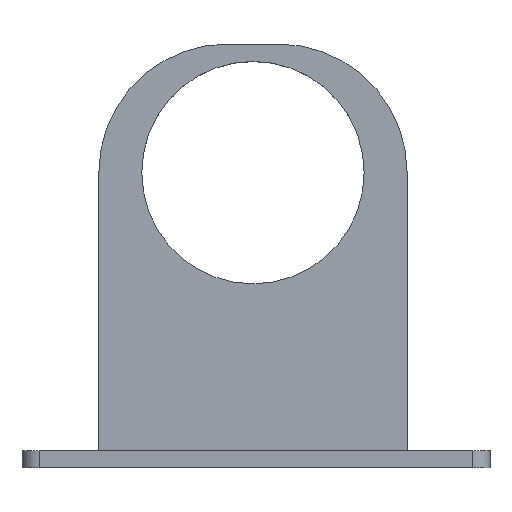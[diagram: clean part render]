
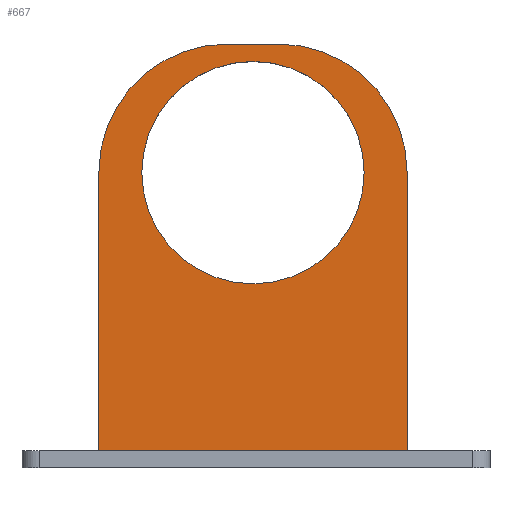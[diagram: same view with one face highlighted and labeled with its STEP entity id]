
A CAD part, top view. The second image highlights one B-rep face of the part: STEP entity #667.
In plain terms, the highlighted planar face has unit normal (0, 0, 1).
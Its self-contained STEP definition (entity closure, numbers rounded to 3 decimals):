
#18 = ORIENTED_EDGE ( 'NONE', *, *, #673, .T. ) ;
#30 = VECTOR ( 'NONE', #362, 1000. ) ;
#33 = FACE_OUTER_BOUND ( 'NONE', #332, .T. ) ;
#41 = CARTESIAN_POINT ( 'NONE',  ( -3.019, 15.029, 8. ) ) ;
#51 = EDGE_CURVE ( 'NONE', #725, #519, #535, .T. ) ;
#55 = LINE ( 'NONE', #434, #288 ) ;
#74 = AXIS2_PLACEMENT_3D ( 'NONE', #653, #264, #192 ) ;
#78 = ORIENTED_EDGE ( 'NONE', *, *, #700, .F. ) ;
#105 = CARTESIAN_POINT ( 'NONE',  ( -13., 0., 8. ) ) ;
#111 = DIRECTION ( 'NONE',  ( 0., 0., -1. ) ) ;
#135 = CARTESIAN_POINT ( 'NONE',  ( -18.019, 15.029, 8. ) ) ;
#137 = VECTOR ( 'NONE', #484, 1000. ) ;
#170 = LINE ( 'NONE', #290, #137 ) ;
#183 = EDGE_CURVE ( 'NONE', #348, #746, #236, .T. ) ;
#189 = DIRECTION ( 'NONE',  ( 0., -1., 0. ) ) ;
#192 = DIRECTION ( 'NONE',  ( -1., 0., 0. ) ) ;
#236 = LINE ( 'NONE', #666, #30 ) ;
#253 = DIRECTION ( 'NONE',  ( 0., 0., 1. ) ) ;
#263 = VECTOR ( 'NONE', #588, 1000. ) ;
#264 = DIRECTION ( 'NONE',  ( 0., 0., -1. ) ) ;
#286 = PLANE ( 'NONE',  #515 ) ;
#288 = VECTOR ( 'NONE', #189, 1000. ) ;
#290 = CARTESIAN_POINT ( 'NONE',  ( -18.019, 15.029, 8. ) ) ;
#293 = DIRECTION ( 'NONE',  ( -1., 0., 0. ) ) ;
#310 = CARTESIAN_POINT ( 'NONE',  ( 13., 0., 8. ) ) ;
#330 = ORIENTED_EDGE ( 'NONE', *, *, #487, .F. ) ;
#332 = EDGE_LOOP ( 'NONE', ( #330, #601, #78, #18, #365, #587 ) ) ;
#348 = VERTEX_POINT ( 'NONE', #641 ) ;
#349 = DIRECTION ( 'NONE',  ( -1., 0., 0. ) ) ;
#362 = DIRECTION ( 'NONE',  ( -1., 0., 0. ) ) ;
#365 = ORIENTED_EDGE ( 'NONE', *, *, #388, .T. ) ;
#388 = EDGE_CURVE ( 'NONE', #660, #746, #650, .T. ) ;
#390 = DIRECTION ( 'NONE',  ( -1., 0., 0. ) ) ;
#401 = EDGE_CURVE ( 'NONE', #519, #725, #631, .T. ) ;
#404 = ORIENTED_EDGE ( 'NONE', *, *, #51, .T. ) ;
#405 = VERTEX_POINT ( 'NONE', #452 ) ;
#411 = CARTESIAN_POINT ( 'NONE',  ( -3.019, 0.029, 8. ) ) ;
#427 = AXIS2_PLACEMENT_3D ( 'NONE', #581, #454, #390 ) ;
#434 = CARTESIAN_POINT ( 'NONE',  ( 18.019, 15.029, 8. ) ) ;
#445 = CARTESIAN_POINT ( 'NONE',  ( -18.019, 0.029, 8. ) ) ;
#452 = CARTESIAN_POINT ( 'NONE',  ( 18.019, 0.029, 8. ) ) ;
#454 = DIRECTION ( 'NONE',  ( 0., 0., -1. ) ) ;
#467 = AXIS2_PLACEMENT_3D ( 'NONE', #504, #253, #293 ) ;
#484 = DIRECTION ( 'NONE',  ( 1., 0., 0. ) ) ;
#487 = EDGE_CURVE ( 'NONE', #405, #348, #55, .T. ) ;
#502 = AXIS2_PLACEMENT_3D ( 'NONE', #411, #556, #551 ) ;
#504 = CARTESIAN_POINT ( 'NONE',  ( 3.019, 0.029, 8. ) ) ;
#512 = EDGE_CURVE ( 'NONE', #405, #685, #766, .T. ) ;
#515 = AXIS2_PLACEMENT_3D ( 'NONE', #624, #111, #349 ) ;
#519 = VERTEX_POINT ( 'NONE', #310 ) ;
#535 = CIRCLE ( 'NONE', #427, 13. ) ;
#540 = CARTESIAN_POINT ( 'NONE',  ( -18.019, -32.5, 8. ) ) ;
#551 = DIRECTION ( 'NONE',  ( -1., 0., 0. ) ) ;
#556 = DIRECTION ( 'NONE',  ( 0., 0., 1. ) ) ;
#581 = CARTESIAN_POINT ( 'NONE',  ( 0., 0., 8. ) ) ;
#587 = ORIENTED_EDGE ( 'NONE', *, *, #183, .F. ) ;
#588 = DIRECTION ( 'NONE',  ( 0., -1., 0. ) ) ;
#601 = ORIENTED_EDGE ( 'NONE', *, *, #512, .T. ) ;
#624 = CARTESIAN_POINT ( 'NONE',  ( 0., 0., 8. ) ) ;
#626 = ORIENTED_EDGE ( 'NONE', *, *, #401, .T. ) ;
#631 = CIRCLE ( 'NONE', #74, 13. ) ;
#641 = CARTESIAN_POINT ( 'NONE',  ( 18.019, -32.5, 8. ) ) ;
#642 = FACE_BOUND ( 'NONE', #663, .T. ) ;
#650 = LINE ( 'NONE', #135, #263 ) ;
#653 = CARTESIAN_POINT ( 'NONE',  ( 0., 0., 8. ) ) ;
#660 = VERTEX_POINT ( 'NONE', #445 ) ;
#663 = EDGE_LOOP ( 'NONE', ( #404, #626 ) ) ;
#666 = CARTESIAN_POINT ( 'NONE',  ( 0., -32.5, 8. ) ) ;
#667 = ADVANCED_FACE ( 'NONE', ( #642, #33 ), #286, .F. ) ;
#673 = EDGE_CURVE ( 'NONE', #781, #660, #773, .T. ) ;
#685 = VERTEX_POINT ( 'NONE', #820 ) ;
#700 = EDGE_CURVE ( 'NONE', #781, #685, #170, .T. ) ;
#725 = VERTEX_POINT ( 'NONE', #105 ) ;
#746 = VERTEX_POINT ( 'NONE', #540 ) ;
#766 = CIRCLE ( 'NONE', #467, 15. ) ;
#773 = CIRCLE ( 'NONE', #502, 15. ) ;
#781 = VERTEX_POINT ( 'NONE', #41 ) ;
#820 = CARTESIAN_POINT ( 'NONE',  ( 3.019, 15.029, 8. ) ) ;
